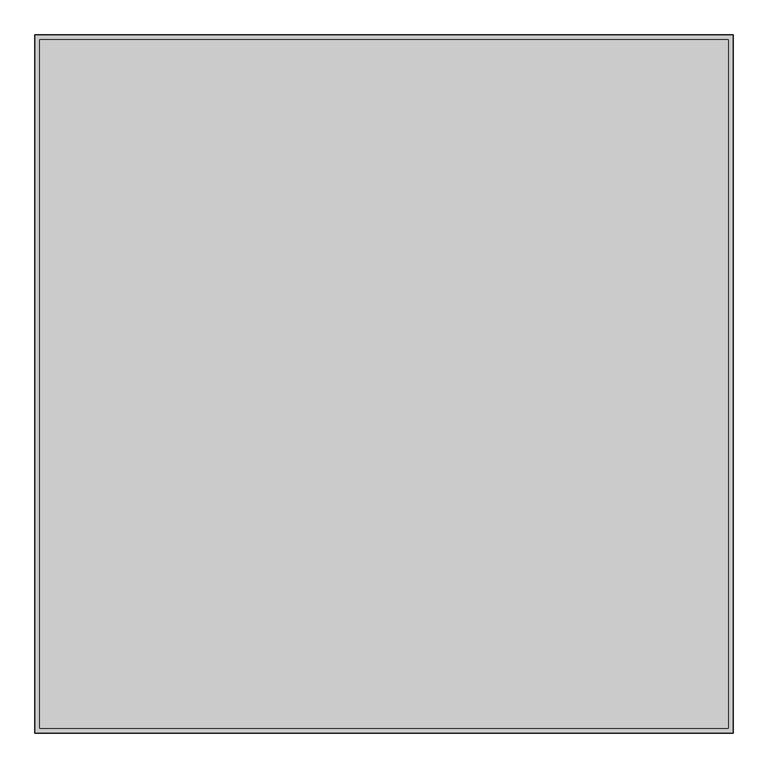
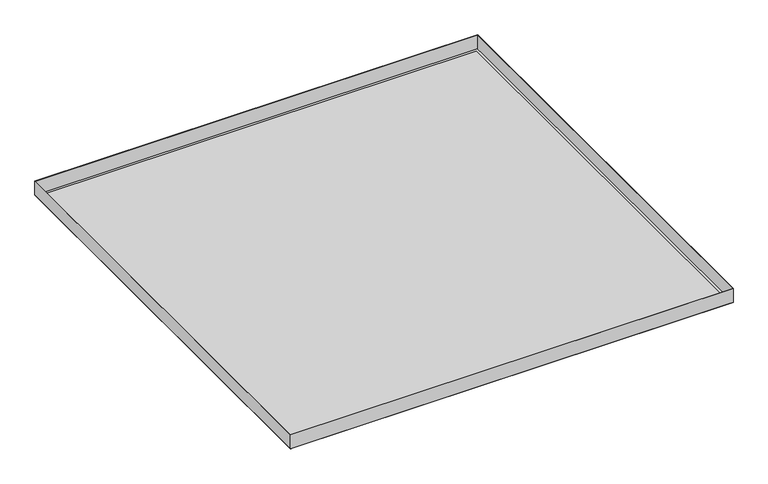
"""IFC4 building model written with IfcOpenShell, lengths in millimetres: proxy geometry, durlum_S10H_panel : durlum_S10H_panel."""

from ifc_helpers import new_model, si_unit, frame, origin, origin_with_axes, place, context, project, spatial, polyline, outline, extrude, source, transform, mapped, element, save


def generic_models_a5dce9ca(model_context):
    return source(origin(), model_context, "Body", "SweptSolid", [
        extrude(outline(polyline([(599.75, 599.75), (599.75, -599.75), (-599.75, -599.75), (-599.75, 599.75), (599.75, 599.75)]), holes=[polyline([(599.15, 599.15), (-599.15, 599.15), (-599.15, -599.15), (599.15, -599.15), (599.15, 599.15)])]), frame((0.0, 0.0, 0.6), z_axis=(0.0, 0.0, 1.0), x_axis=(1.0, 0.0, 0.0)), (0.0, 0.0, 1.0), 39.4),
        extrude(outline(polyline([(591.75, 591.75), (591.75, -591.75), (-591.75, -591.75), (-591.75, 591.75), (591.75, 591.75)])), frame((0.0, 0.0, 0.6), z_axis=(0.0, 0.0, 1.0), x_axis=(1.0, 0.0, 0.0)), (0.0, 0.0, 1.0), 0.6),
        extrude(outline(polyline([(599.75, 599.75), (599.75, -599.75), (-599.75, -599.75), (-599.75, 599.75), (599.75, 599.75)]), holes=[polyline([(591.75, 591.75), (-591.75, 591.75), (-591.75, -591.75), (591.75, -591.75), (591.75, 591.75)])]), origin_with_axes(), (0.0, 0.0, 1.0), 0.6),
        extrude(outline(polyline([(591.75, 591.75), (591.75, -591.75), (-591.75, -591.75), (-591.75, 591.75), (591.75, 591.75)])), origin_with_axes(), (0.0, 0.0, 1.0), 0.6),
    ])


if __name__ == "__main__":
    model = new_model("IFC4")
    model_context = context("Model", 3, world=origin())
    ifc_project = project(units=[si_unit("LENGTHUNIT", "METRE", prefix="MILLI")], contexts=[model_context])
    site = spatial("IfcSite", under=ifc_project)
    building = spatial("IfcBuilding", under=site)
    placement = place(None, origin())
    generic_models_shape = generic_models_a5dce9ca(model_context)
    element("IfcBuildingElementProxy", 1, Name="durlum_S10H_panel : durlum_S10H_panel", ObjectType="durlum_S10H_panel : durlum_S10H_panel", at=placement, inside=building, context=model_context, shape_type="MappedRepresentation", body=[
        mapped(generic_models_shape, transform((0.0, 0.0, 0.0), x_axis=(1.0, 0.0, 0.0), y_axis=(0.0, 1.0, 0.0), z_axis=(0.0, 0.0, 1.0))),
    ])
    save(model, "model.ifc")
